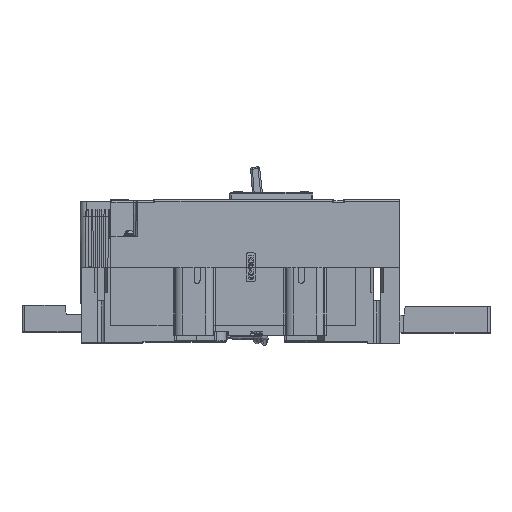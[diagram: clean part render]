
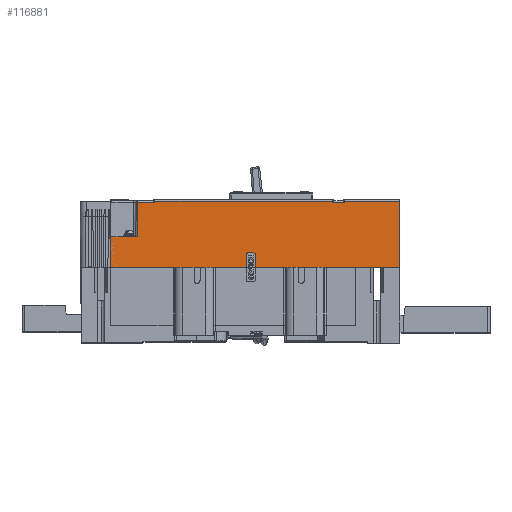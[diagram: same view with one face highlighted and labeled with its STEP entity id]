
A CAD part, top view. The second image highlights one B-rep face of the part: STEP entity #116881.
In plain terms, the highlighted planar face has unit normal (0, 0, 1).
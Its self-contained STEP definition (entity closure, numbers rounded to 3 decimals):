
#15322 = LINE ( 'NONE', #15458, #15456 ) ;
#15452 = CARTESIAN_POINT ( 'NONE',  ( -234.132, 59.317, 270.343 ) ) ;
#15454 = DIRECTION ( 'NONE',  ( 1., 0., 0. ) ) ;
#15456 = VECTOR ( 'NONE', #15454, 1000. ) ;
#15458 = CARTESIAN_POINT ( 'NONE',  ( 91.583, 59.317, 270.343 ) ) ;
#25699 = VERTEX_POINT ( 'NONE', #83794 ) ;
#41978 = ORIENTED_EDGE ( 'NONE', *, *, #116805, .F. ) ;
#42126 = VERTEX_POINT ( 'NONE', #132885 ) ;
#50602 = VERTEX_POINT ( 'NONE', #94539 ) ;
#83794 = CARTESIAN_POINT ( 'NONE',  ( 93.283, 59.317, 270.343 ) ) ;
#94539 = CARTESIAN_POINT ( 'NONE',  ( 93.283, 134.167, 270.343 ) ) ;
#111265 = VECTOR ( 'NONE', #111439, 1000. ) ;
#111266 = CARTESIAN_POINT ( 'NONE',  ( -234.132, 59.317, 270.343 ) ) ;
#111306 = LINE ( 'NONE', #111266, #111265 ) ;
#111357 = LINE ( 'NONE', #111427, #111407 ) ;
#111405 = DIRECTION ( 'NONE',  ( 0., -1., 0. ) ) ;
#111407 = VECTOR ( 'NONE', #111405, 1000. ) ;
#111427 = CARTESIAN_POINT ( 'NONE',  ( 93.283, 136.167, 270.343 ) ) ;
#111439 = DIRECTION ( 'NONE',  ( 0., 1., 0. ) ) ;
#111493 = CARTESIAN_POINT ( 'NONE',  ( -203.775, 93.667, 270.343 ) ) ;
#111569 = DIRECTION ( 'NONE',  ( -0.009, -1., 0. ) ) ;
#111571 = VECTOR ( 'NONE', #111569, 1000. ) ;
#111588 = LINE ( 'NONE', #111601, #111571 ) ;
#111601 = CARTESIAN_POINT ( 'NONE',  ( -203.381, 138.741, 270.343 ) ) ;
#114230 = DIRECTION ( 'NONE',  ( 0., 1., 0. ) ) ;
#114231 = VECTOR ( 'NONE', #114230, 1000. ) ;
#114233 = CARTESIAN_POINT ( 'NONE',  ( 16.558, 136.167, 270.343 ) ) ;
#114252 = LINE ( 'NONE', #114233, #114231 ) ;
#114253 = CARTESIAN_POINT ( 'NONE',  ( 16.558, 134.167, 270.343 ) ) ;
#114263 = DIRECTION ( 'NONE',  ( -1., 0., 0. ) ) ;
#114264 = VECTOR ( 'NONE', #114263, 1000. ) ;
#114265 = CARTESIAN_POINT ( 'NONE',  ( 91.583, 132.967, 270.343 ) ) ;
#114266 = LINE ( 'NONE', #114265, #114264 ) ;
#114270 = CARTESIAN_POINT ( 'NONE',  ( 16.558, 132.967, 270.343 ) ) ;
#114335 = CARTESIAN_POINT ( 'NONE',  ( -184.132, 132.967, 270.343 ) ) ;
#114348 = DIRECTION ( 'NONE',  ( 1., 0., 0. ) ) ;
#114349 = VECTOR ( 'NONE', #114348, 1000. ) ;
#114351 = CARTESIAN_POINT ( 'NONE',  ( -219.775, 93.667, 270.343 ) ) ;
#114353 = LINE ( 'NONE', #114351, #114349 ) ;
#114357 = DIRECTION ( 'NONE',  ( -1., 0., 0. ) ) ;
#114358 = DIRECTION ( 'NONE',  ( 0., 0., -1. ) ) ;
#114359 = CARTESIAN_POINT ( 'NONE',  ( 91.583, 136.167, 270.343 ) ) ;
#114360 = AXIS2_PLACEMENT_3D ( 'NONE', #114359, #114358, #114357 ) ;
#114361 = PLANE ( 'NONE',  #114360 ) ;
#114362 = FACE_OUTER_BOUND ( 'NONE', #116882, .T. ) ;
#114368 = DIRECTION ( 'NONE',  ( -1., 0., 0. ) ) ;
#114369 = VECTOR ( 'NONE', #114368, 1000. ) ;
#114370 = CARTESIAN_POINT ( 'NONE',  ( 28.933, 134.167, 270.343 ) ) ;
#114381 = LINE ( 'NONE', #114370, #114369 ) ;
#114382 = CARTESIAN_POINT ( 'NONE',  ( 30.933, 134.167, 270.343 ) ) ;
#114415 = DIRECTION ( 'NONE',  ( 0., -1., 0. ) ) ;
#114416 = VECTOR ( 'NONE', #114415, 1000. ) ;
#114417 = CARTESIAN_POINT ( 'NONE',  ( -184.132, 136.167, 270.343 ) ) ;
#114419 = LINE ( 'NONE', #114417, #114416 ) ;
#114461 = DIRECTION ( 'NONE',  ( 0., -1., 0. ) ) ;
#114462 = VECTOR ( 'NONE', #114461, 1000. ) ;
#114463 = CARTESIAN_POINT ( 'NONE',  ( 30.933, 136.167, 270.343 ) ) ;
#114464 = LINE ( 'NONE', #114463, #114462 ) ;
#114469 = CARTESIAN_POINT ( 'NONE',  ( 30.933, 132.967, 270.343 ) ) ;
#114472 = DIRECTION ( 'NONE',  ( -1., 0., 0. ) ) ;
#114486 = VECTOR ( 'NONE', #114472, 1000. ) ;
#114488 = CARTESIAN_POINT ( 'NONE',  ( 91.583, 132.967, 270.343 ) ) ;
#114495 = LINE ( 'NONE', #114488, #114486 ) ;
#114505 = CARTESIAN_POINT ( 'NONE',  ( -203.432, 132.967, 270.343 ) ) ;
#115146 = LINE ( 'NONE', #115241, #115240 ) ;
#115147 = CARTESIAN_POINT ( 'NONE',  ( -184.132, 134.167, 270.343 ) ) ;
#115239 = DIRECTION ( 'NONE',  ( -1., 0., 0. ) ) ;
#115240 = VECTOR ( 'NONE', #115239, 1000. ) ;
#115241 = CARTESIAN_POINT ( 'NONE',  ( -186.132, 134.167, 270.343 ) ) ;
#116805 = EDGE_CURVE ( 'NONE', #147571, #42126, #111306, .T. ) ;
#116808 = ORIENTED_EDGE ( 'NONE', *, *, #147570, .T. ) ;
#116812 = ORIENTED_EDGE ( 'NONE', *, *, #116813, .F. ) ;
#116813 = EDGE_CURVE ( 'NONE', #50602, #25699, #111357, .T. ) ;
#116814 = ORIENTED_EDGE ( 'NONE', *, *, #116899, .T. ) ;
#116825 = VERTEX_POINT ( 'NONE', #111493 ) ;
#116831 = EDGE_CURVE ( 'NONE', #116916, #116825, #111588, .T. ) ;
#116836 = ORIENTED_EDGE ( 'NONE', *, *, #116925, .T. ) ;
#116837 = ORIENTED_EDGE ( 'NONE', *, *, #116856, .T. ) ;
#116838 = ORIENTED_EDGE ( 'NONE', *, *, #116866, .T. ) ;
#116840 = ORIENTED_EDGE ( 'NONE', *, *, #116963, .T. ) ;
#116842 = ORIENTED_EDGE ( 'NONE', *, *, #116908, .T. ) ;
#116843 = ORIENTED_EDGE ( 'NONE', *, *, #116920, .T. ) ;
#116854 = VERTEX_POINT ( 'NONE', #114270 ) ;
#116856 = EDGE_CURVE ( 'NONE', #116923, #116854, #114266, .T. ) ;
#116864 = VERTEX_POINT ( 'NONE', #114253 ) ;
#116866 = EDGE_CURVE ( 'NONE', #116854, #116864, #114252, .T. ) ;
#116881 = ADVANCED_FACE ( 'NONE', ( #114362 ), #114361, .F. ) ;
#116882 = EDGE_LOOP ( 'NONE', ( #116884, #116886, #41978, #116808, #116812, #116814, #116836, #116837, #116838, #116840, #116842, #116843 ) ) ;
#116884 = ORIENTED_EDGE ( 'NONE', *, *, #116831, .T. ) ;
#116886 = ORIENTED_EDGE ( 'NONE', *, *, #116887, .F. ) ;
#116887 = EDGE_CURVE ( 'NONE', #42126, #116825, #114353, .T. ) ;
#116890 = VERTEX_POINT ( 'NONE', #114335 ) ;
#116895 = VERTEX_POINT ( 'NONE', #114382 ) ;
#116899 = EDGE_CURVE ( 'NONE', #50602, #116895, #114381, .T. ) ;
#116908 = EDGE_CURVE ( 'NONE', #116961, #116890, #114419, .T. ) ;
#116916 = VERTEX_POINT ( 'NONE', #114505 ) ;
#116920 = EDGE_CURVE ( 'NONE', #116890, #116916, #114495, .T. ) ;
#116923 = VERTEX_POINT ( 'NONE', #114469 ) ;
#116925 = EDGE_CURVE ( 'NONE', #116895, #116923, #114464, .T. ) ;
#116961 = VERTEX_POINT ( 'NONE', #115147 ) ;
#116963 = EDGE_CURVE ( 'NONE', #116864, #116961, #115146, .T. ) ;
#132885 = CARTESIAN_POINT ( 'NONE',  ( -234.132, 93.667, 270.343 ) ) ;
#147570 = EDGE_CURVE ( 'NONE', #147571, #25699, #15322, .T. ) ;
#147571 = VERTEX_POINT ( 'NONE', #15452 ) ;
